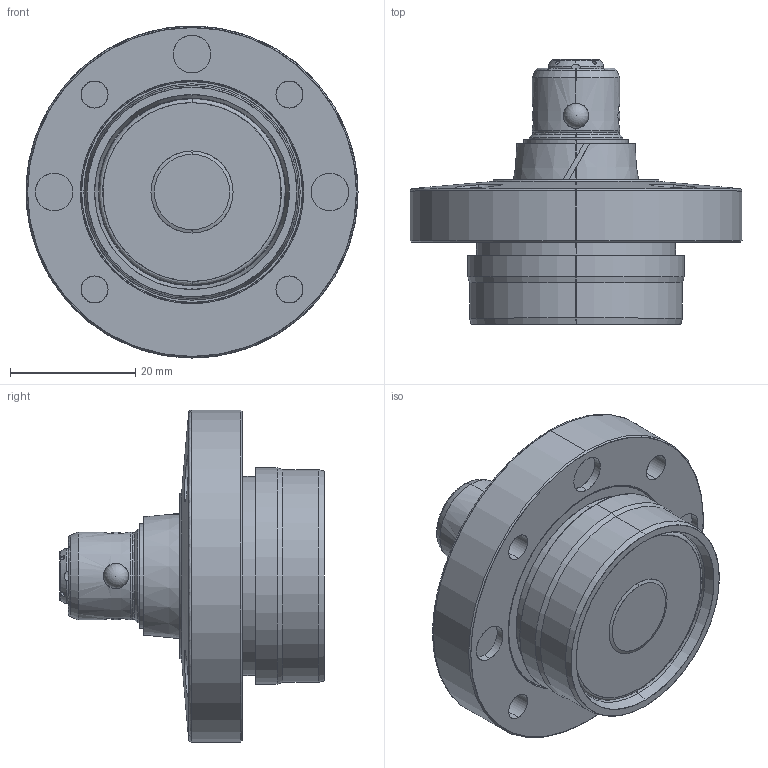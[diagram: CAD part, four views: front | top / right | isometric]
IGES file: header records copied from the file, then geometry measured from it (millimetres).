
Start section: SolidWorks IGES file using analytic representation for surfaces
Global section: file name: C:\Documents and Settings\D211\デスクトップ\IGES・STEP203変換用中間ﾌｫﾙﾀﾞ\SWT0010-MD.igs; native system: SolidWorks 2009; preprocessor: SolidWorks 2009; author: D211; date: 100804.161831; units: millimetre
Bounding box: 53 x 42.3 x 53 mm (x, y, z)
Surface area: 15416.6 mm2 (no closed solid volume)
Topology: 0 solids, 0 shells, 303 faces, 4795 edges, 4779 vertices
Faces by surface type: revolution 193, bspline 110
